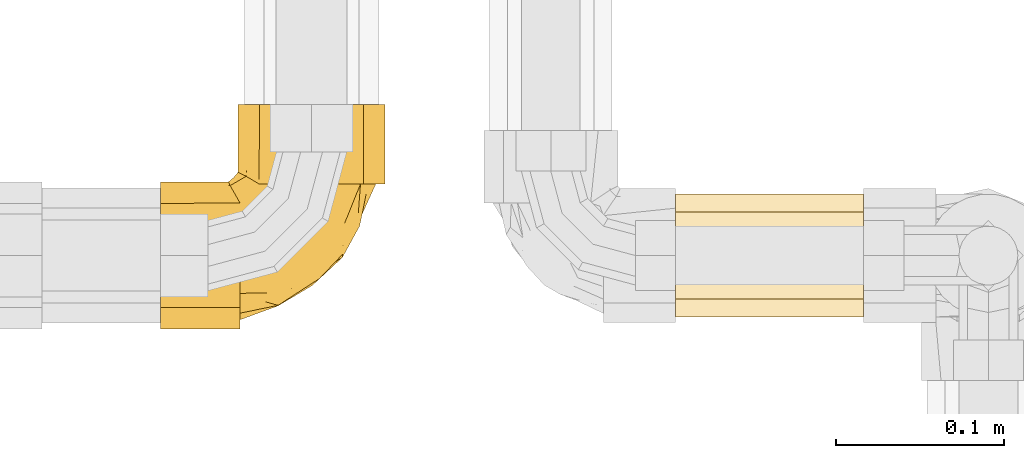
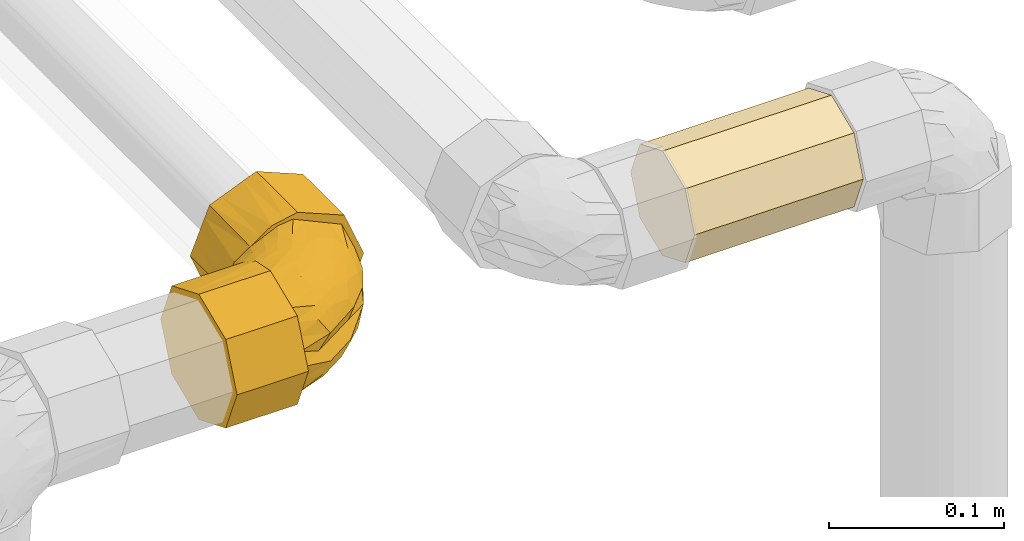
# One storey, part 252 of 652: 2 coverings.
"""IFC2X3 building model written with IfcOpenShell, lengths in millimetres."""

from ifc_helpers import new_model, entity, si_unit, converted_unit, direction, frame, origin, place, context, subcontext, project, spatial, faceted_brep, material, type_object, element, save


model = new_model("IFC2X3")

# Units and contexts
model_context = context("Model", 3, precision=0.01, world=frame((0.0, 0.0, 308426.39999999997)), true_north=direction((6.123233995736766e-17, 1.0)))
plan_context = context("Plan", 3, precision=0.01, world=frame((0.0, 0.0, 308426.39999999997)), true_north=direction((6.123233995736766e-17, 1.0)))
body_context = subcontext(model_context, "Body", "Model", "MODEL_VIEW")
ifc_project = project(units=[si_unit("LENGTHUNIT", "METRE", prefix="MILLI"), si_unit("AREAUNIT", "SQUARE_METRE"), si_unit("VOLUMEUNIT", "CUBIC_METRE"), converted_unit("PLANEANGLEUNIT", "DEGREE", entity("IfcPlaneAngleMeasure", 0.017453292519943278), si_unit("PLANEANGLEUNIT", "RADIAN"), dimensions=[0, 0, 0, 0, 0, 0, 0])], contexts=[model_context, plan_context])

# Site, building, storey
site_placement = place(None, origin())
site = spatial("IfcSite", under=ifc_project, at=site_placement, Name="Default", CompositionType="ELEMENT")
building_placement = place(site_placement, origin())
building = spatial("IfcBuilding", under=site, at=building_placement, CompositionType="ELEMENT")
storey_placement = place(building_placement, frame((0.0, 0.0, 1730.6999999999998)))
storey = spatial("IfcBuildingStorey", under=building, at=storey_placement, Name="EG_Produktion_FFB", CompositionType="ELEMENT", Elevation=1730.6999999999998)

# Coverings
ifc_material = material(Name="Dämmung - Armaflex-Schlauch")
covering_type = type_object("IfcCoveringType", Name="Rohrdämmung außen:Armaflex-Schlauch", PredefinedType="INSULATION")
covering_1_placement = place(storey_placement, frame((78890.28000000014, 51592.71308173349, 3554.6847277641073)))
element("IfcCovering", 1, at=covering_1_placement, inside=storey, type_object=covering_type, material=ifc_material, Name="Rohrdämmung außen:Armaflex-Schlauch", ObjectType="Rohrdämmung außen:Armaflex-Schlauch", PredefinedType="INSULATION", context=body_context, shape_type="Brep", body=[
    faceted_brep([(47.17999999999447, 45.315272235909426, 1.5952722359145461), (47.17999999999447, 53.79016348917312, 3.304941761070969), (47.17999999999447, 62.265054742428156, 5.014611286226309), (47.17999999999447, 69.4070792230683, 9.868813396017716), (47.17999999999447, 76.54910370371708, 14.723015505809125), (47.180000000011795, 67.43551000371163, 10.581665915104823), (47.17999999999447, 58.3219163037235, 6.440316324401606), (47.17999999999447, 48.32176388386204, 5.315272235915), (47.180000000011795, 40.63317513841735, 8.855811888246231), (47.180000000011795, 32.94458639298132, 12.396351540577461), (47.180000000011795, 24.595238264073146, 16.241166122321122), (47.17999999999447, 16.2458901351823, 20.085980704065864), (47.180000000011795, 11.677312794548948, 32.70062646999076), (47.17999999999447, 7.108735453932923, 45.31527223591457), (47.180000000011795, 11.036427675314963, 53.1972475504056), (47.180000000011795, 14.964119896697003, 61.07922286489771), (47.180000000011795, 18.891812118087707, 68.96119817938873), (47.17999999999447, 22.81950433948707, 76.84317349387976), (47.180000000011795, 32.0567064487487, 79.91186190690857), (47.180000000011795, 40.189235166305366, 82.6135670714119), (47.17999999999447, 48.32176388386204, 85.31527223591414), (47.180000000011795, 52.07968978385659, 84.47655416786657), (47.180000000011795, 55.8376156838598, 83.63783609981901), (47.180000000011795, 61.84796091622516, 82.29640860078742), (47.17999999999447, 67.85830614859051, 80.9549811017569), (47.17999999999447, 76.54910370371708, 75.90752896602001), (47.17999999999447, 69.4070792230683, 80.76173107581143), (47.17999999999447, 62.265054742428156, 85.61593318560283), (47.17999999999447, 53.79016348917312, 87.32560271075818), (47.17999999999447, 45.315272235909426, 89.03527223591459), (47.17999999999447, 36.91076329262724, 85.55401064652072), (47.17999999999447, 29.85791799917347, 82.6326264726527), (47.17999999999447, 22.129240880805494, 79.43130359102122), (47.17999999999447, 14.400563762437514, 76.22998070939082), (47.17999999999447, 11.19924088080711, 68.50130359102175), (47.17999999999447, 7.997917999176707, 60.77262647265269), (47.17999999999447, 5.076533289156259, 53.71977988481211), (47.17999999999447, 1.5952722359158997, 45.31527223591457), (47.17999999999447, 5.076533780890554, 36.91076339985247), (47.17999999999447, 7.997917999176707, 29.85791799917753), (47.17999999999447, 11.19924088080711, 22.12924088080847), (47.17999999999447, 14.400563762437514, 14.400563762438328), (47.17999999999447, 22.129240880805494, 11.199240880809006), (47.17999999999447, 29.85791799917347, 7.997917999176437), (47.17999999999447, 36.910764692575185, 5.07653324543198), (0.0, 53.71977982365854, 85.55401120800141), (0.0, 60.772626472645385, 82.6326264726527), (0.0, 68.50130359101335, 79.4313035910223), (0.0, 76.22998070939, 76.22998070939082), (0.0, 79.43130359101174, 68.50130359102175), (0.0, 82.63262647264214, 60.77262647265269), (0.0, 85.83394935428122, 53.04394935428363), (0.0, 89.03527223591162, 45.31527223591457), (0.0, 85.55401125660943, 36.91076476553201), (0.0, 82.63262647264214, 29.857917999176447), (0.0, 79.43130359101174, 22.129240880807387), (0.0, 76.22998070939, 14.400563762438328), (0.0, 68.50130359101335, 11.199240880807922), (0.0, 60.772626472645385, 7.997917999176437), (0.0, 53.0439493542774, 4.796595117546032), (0.0, 45.315272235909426, 1.5952722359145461), (0.0, 37.58659511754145, 4.796595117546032), (0.0, 29.85791799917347, 7.997917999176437), (0.0, 22.129240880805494, 11.199240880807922), (0.0, 14.400563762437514, 14.400563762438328), (0.0, 11.19924088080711, 22.12924088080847), (0.0, 7.9979179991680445, 29.857917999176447), (0.0, 4.796595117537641, 37.58659511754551), (0.0, 1.5952722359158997, 45.31527223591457), (0.0, 4.796595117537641, 53.04394935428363), (0.0, 7.997917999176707, 60.77262647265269), (0.0, 11.19924088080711, 68.50130359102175), (0.0, 14.400563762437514, 76.22998070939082), (0.0, 21.45340872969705, 79.15136474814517), (0.0, 28.506253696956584, 82.07274878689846), (0.0, 36.910762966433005, 85.55401051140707), (0.0, 45.315272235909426, 89.03527223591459), (40.28038015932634, 89.03527223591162, 45.31527223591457), (41.33169831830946, 86.8489728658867, 58.96774864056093), (44.25584915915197, 81.69903828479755, 67.43763880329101), (41.46955853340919, 86.62452082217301, 35.3359771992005), (42.65873690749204, 84.2137694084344, 25.356682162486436), (44.91936845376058, 80.38143655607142, 20.039848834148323), (89.72000000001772, 87.85527223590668, 1.595272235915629), (98.1245082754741, 87.85527223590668, 5.07653354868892), (105.17735423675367, 87.85527223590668, 7.9979179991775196), (112.90603135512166, 87.85527223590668, 11.199240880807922), (120.63470847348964, 87.85527223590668, 14.40056376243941), (123.83603135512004, 87.85527223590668, 22.12924088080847), (127.03735423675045, 87.85527223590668, 29.85791799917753), (129.95873900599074, 87.85527223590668, 36.910764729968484), (133.44000000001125, 87.85527223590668, 45.31527223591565), (129.95873853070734, 87.85527223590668, 53.71978088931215), (127.03735423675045, 87.85527223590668, 60.772626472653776), (123.83603135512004, 87.85527223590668, 68.50130359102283), (120.63470847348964, 87.85527223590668, 76.2299807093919), (112.90603135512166, 87.85527223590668, 79.4313035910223), (105.17735423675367, 87.85527223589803, 82.6326264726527), (98.12450799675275, 87.85527223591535, 85.55401103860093), (89.72000000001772, 87.85527223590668, 89.03527223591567), (81.24510874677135, 87.85527223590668, 87.32560271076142), (72.77021749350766, 87.85527223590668, 85.61593318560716), (65.62819301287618, 87.85527223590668, 80.76173107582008), (58.48616853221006, 87.85527223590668, 75.90752896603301), (67.59976223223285, 87.85527223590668, 80.04887855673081), (76.71335593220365, 87.85527223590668, 84.19022814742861), (86.71350835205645, 87.85527223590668, 85.31527223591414), (94.40209699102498, 87.85527223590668, 81.7747326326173), (102.0906856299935, 87.85527223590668, 78.23419302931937), (110.44003386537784, 87.85527223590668, 74.3893783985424), (118.78938210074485, 87.85527223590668, 70.54456376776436), (123.35795944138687, 87.85527223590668, 57.92991800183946), (127.92653678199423, 87.85527223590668, 45.31527223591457), (124.11404686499, 87.85527223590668, 37.66448146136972), (120.30155694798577, 87.85527223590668, 30.013690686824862), (116.2586624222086, 87.85527223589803, 21.90053083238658), (112.21576789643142, 87.85527223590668, 13.78737097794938), (102.97856549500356, 87.85527223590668, 10.71868246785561), (94.84603692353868, 87.85527223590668, 8.016977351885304), (86.71350835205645, 87.85527223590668, 5.315272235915), (82.95558201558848, 87.85527223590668, 6.1539904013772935), (79.1976556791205, 87.85527223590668, 6.9927085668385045), (73.18731088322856, 87.85527223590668, 8.334135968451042), (67.17696608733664, 87.85527223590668, 9.675563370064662), (58.48616853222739, 87.85527223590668, 14.723015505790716), (65.62819301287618, 87.85527223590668, 9.868813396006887), (72.77021749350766, 87.85527223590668, 5.014611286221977), (81.24510874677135, 87.85527223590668, 3.3049417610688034), (120.63470847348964, 135.03527223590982, 76.2299807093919), (123.5560925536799, 135.03527223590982, 69.17713564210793), (126.47747663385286, 135.03527223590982, 62.12429057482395), (129.9587383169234, 135.03527223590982, 53.7197814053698), (133.44000000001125, 135.03527223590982, 45.31527223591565), (130.23867711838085, 135.03527223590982, 37.586595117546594), (127.03735423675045, 135.03527223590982, 29.85791799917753), (123.83603135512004, 135.03527223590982, 22.12924088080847), (120.63470847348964, 135.03527223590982, 14.40056376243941), (113.58186238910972, 135.03527223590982, 11.479179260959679), (106.5290163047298, 135.03527223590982, 8.557794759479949), (98.12450815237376, 135.03527223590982, 5.076533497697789), (89.72000000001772, 135.03527223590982, 1.595272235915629), (81.31549252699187, 135.03527223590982, 5.076533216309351), (74.26264576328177, 135.03527223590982, 7.9979179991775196), (66.53396864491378, 135.03527223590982, 11.199240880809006), (58.805291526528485, 135.03527223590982, 14.40056376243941), (55.603968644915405, 135.03527223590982, 22.129240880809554), (52.402645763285, 135.03527223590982, 29.85791799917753), (49.2013228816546, 135.03527223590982, 37.586595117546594), (46.0, 135.03527223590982, 45.31527223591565), (49.48126098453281, 135.03527223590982, 53.71977971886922), (52.402645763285, 135.03527223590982, 60.772626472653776), (55.603968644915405, 135.03527223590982, 68.50130359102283), (58.805291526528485, 135.03527223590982, 76.2299807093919), (66.53396864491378, 135.03527223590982, 79.4313035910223), (74.26264576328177, 135.03527223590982, 82.63262647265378), (81.3154907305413, 135.03527223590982, 85.55401051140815), (89.72000000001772, 135.03527223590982, 89.03527223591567), (97.4486771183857, 135.03527223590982, 85.83394935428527), (105.17735423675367, 135.03527223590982, 82.63262647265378), (112.90603135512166, 135.03527223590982, 79.4313035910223), (48.410751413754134, 93.5657137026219, 55.29456727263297), (46.0, 94.75489207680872, 45.31527223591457), (50.8215028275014, 92.37653532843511, 65.27386230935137), (54.65383567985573, 90.11590378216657, 70.59069563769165), (48.18629937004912, 93.70357391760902, 31.66279583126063), (53.336233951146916, 90.77942307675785, 23.192905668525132), (69.00398703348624, 32.54265070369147, 77.86587625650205), (79.26910311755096, 51.42928359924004, 82.8446716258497), (64.28083873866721, 39.73108312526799, 82.52556184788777), (81.73107569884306, 63.427735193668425, 84.62352217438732), (79.20442983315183, 75.59759657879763, 85.31527223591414), (78.10776438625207, 73.80742095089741, 85.31527223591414), (74.90155785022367, 68.57367093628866, 85.31527223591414), (71.69535131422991, 63.33992092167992, 85.31527223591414), (67.73559181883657, 51.366056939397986, 84.7662311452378), (62.90914025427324, 17.630996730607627, 66.05232360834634), (64.29367597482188, 23.177365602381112, 72.22141766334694), (109.22554710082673, 64.1799761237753, 71.71080253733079), (102.70311048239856, 67.51314169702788, 78.22924719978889), (108.2785050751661, 51.24294252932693, 62.809495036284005), (117.47651375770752, 70.50737075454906, 64.9119334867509), (89.70611796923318, 44.60323784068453, 75.72471560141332), (79.39119784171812, 32.37339901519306, 73.02350929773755), (94.79312059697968, 40.165184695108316, 68.32454403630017), (90.62231442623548, 54.50199303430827, 79.98762004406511), (62.3907714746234, 16.362071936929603, 45.31527223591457), (69.82106388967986, 15.721031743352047, 55.59342986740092), (108.04868616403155, 46.00045172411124, 54.752738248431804), (118.2991624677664, 62.883639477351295, 55.29732490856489), (93.39961730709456, 68.05804006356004, 82.65380542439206), (77.92716293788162, 25.713963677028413, 66.96108775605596), (94.51239127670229, 31.720184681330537, 55.48321494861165), (90.48949943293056, 31.7324039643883, 62.62473881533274), (108.02308589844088, 44.12208138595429, 45.31527223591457), (119.72050695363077, 69.82443573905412, 45.31527223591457), (77.60154294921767, 25.615408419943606, 45.31527223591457), (92.81231442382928, 34.86874490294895, 45.31527223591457), (82.41063636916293, 80.83134659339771, 85.31527223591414), (66.46160079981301, 60.133714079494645, 85.31527223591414), (61.22785028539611, 56.92750723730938, 85.31527223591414), (54.20392514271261, 52.624635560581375, 85.31527223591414), (50.69196257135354, 50.47319972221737, 85.31527223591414), (71.72947387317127, 78.77641040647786, 84.11551811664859), (67.36010628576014, 72.9973537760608, 84.10693973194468), (56.52012715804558, 64.92960904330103, 83.79173661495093), (65.04087912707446, 66.80037174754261, 84.67911960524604), (59.906074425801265, 72.04093677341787, 82.61861058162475), (63.43136302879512, 80.24278960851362, 81.34638912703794), (43.41108006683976, 91.62419216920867, 45.31527223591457), (49.261107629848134, 86.20019924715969, 69.27986326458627), (55.14442212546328, 79.8908502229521, 77.75187936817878), (53.03286107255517, 70.89843278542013, 81.12154294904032), (62.99433518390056, 75.12919765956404, 8.011933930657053), (54.79248203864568, 71.60390875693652, 9.284155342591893), (55.14442305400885, 79.89084929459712, 12.878664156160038), (61.22785028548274, 56.927507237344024, 5.315272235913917), (59.43767565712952, 55.83084240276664, 5.315272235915), (54.203925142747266, 52.624635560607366, 5.315272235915), (48.83507246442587, 85.77416463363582, 21.35068172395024), (64.13683850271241, 82.00241115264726, 9.509001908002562), (70.10566333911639, 78.51514579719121, 6.838807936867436), (62.03791892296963, 67.67516617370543, 6.523604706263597), (68.23490171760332, 69.9943937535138, 5.951424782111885), (71.69535131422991, 63.33992092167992, 5.315272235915), (56.258862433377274, 63.30579864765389, 6.515026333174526), (66.46160079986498, 60.13371407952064, 5.315272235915), (84.56207236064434, 84.34330941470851, 5.315272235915), (82.4106363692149, 80.83134659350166, 5.315272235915), (78.10776438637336, 73.80742095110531, 5.315272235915), (74.90155785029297, 68.57367093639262, 5.315272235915), (112.06272967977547, 70.5186550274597, 18.716447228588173), (117.62981658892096, 72.143548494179, 24.918359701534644), (109.4409783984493, 57.14683994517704, 23.797144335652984), (102.73486486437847, 41.373241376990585, 31.915050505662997), (96.00640061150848, 40.15392129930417, 23.59450518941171), (69.7757408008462, 15.362731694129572, 36.27135106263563), (117.4798389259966, 62.15626531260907, 33.85195429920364), (71.60753660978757, 53.304196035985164, 6.007022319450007), (66.97986259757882, 41.63422557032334, 7.977727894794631), (83.60598780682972, 55.766167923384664, 7.785872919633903), (80.53671556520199, 44.415658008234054, 10.643004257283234), (95.30418854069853, 70.7544326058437, 8.104982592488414), (83.66921531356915, 67.29968029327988, 5.864313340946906), (90.43203242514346, 45.32915177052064, 14.905829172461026), (102.49262071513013, 66.0312838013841, 12.76466818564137), (102.74278789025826, 55.6551098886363, 17.670100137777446), (71.2090381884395, 26.2555269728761, 18.6621952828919), (66.84410548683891, 32.06723242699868, 12.346778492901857), (83.52574882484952, 26.490988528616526, 27.959461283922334), (64.64552317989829, 16.586611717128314, 27.504504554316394), (90.0539908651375, 27.44243292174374, 37.02608684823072)], [[[0, 1, 2, 3, 4, 5, 6, 7, 8, 9, 10, 11, 12, 13, 14, 15, 16, 17, 18, 19, 20, 21, 22, 23, 24, 25, 26, 27, 28, 29, 30, 31, 32, 33, 34, 35, 36, 37, 38, 39, 40, 41, 42, 43, 44]], [[45, 46, 47, 48, 49, 50, 51, 52, 53, 54, 55, 56, 57, 58, 59, 60, 61, 62, 63, 64, 65, 66, 67, 68, 69, 70, 71, 72, 73, 74, 75, 76]], [[45, 27, 47, 46]], [[77, 51, 78]], [[78, 50, 79]], [[51, 77, 52]], [[25, 79, 49]], [[27, 45, 28]], [[48, 26, 25]], [[51, 50, 78]], [[76, 28, 45]], [[76, 29, 28]], [[47, 27, 26]], [[26, 48, 47]], [[25, 49, 48]], [[79, 50, 49]], [[30, 29, 76, 75, 74, 73, 72, 33, 32, 31]], [[33, 72, 71, 70, 69, 68, 37, 36, 35, 34]], [[0, 44, 43, 42, 41, 64, 63, 62, 61, 60]], [[66, 65, 64, 41, 40, 39, 38, 37, 68, 67]], [[3, 57, 56]], [[60, 59, 0]], [[80, 54, 53]], [[58, 2, 1]], [[58, 57, 2]], [[55, 81, 82, 4]], [[53, 77, 80]], [[2, 57, 3]], [[1, 59, 58]], [[56, 4, 3]], [[54, 80, 81]], [[0, 59, 1]], [[53, 52, 77]], [[55, 4, 56]], [[55, 54, 81]], [[83, 84, 85, 86, 87, 88, 89, 90, 91, 92, 93, 94, 95, 96, 97, 98, 99, 100, 101, 102, 103, 104, 105, 106, 107, 108, 109, 110, 111, 112, 113, 114, 115, 116, 117, 118, 119, 120, 121, 122, 123, 124, 125, 126, 127]], [[128, 129, 130, 131, 132, 133, 134, 135, 136, 137, 138, 139, 140, 141, 142, 143, 144, 145, 146, 147, 148, 149, 150, 151, 152, 153, 154, 155, 156, 157, 158, 159]], [[130, 129, 128, 95, 94, 93, 92, 91, 132, 131]], [[95, 128, 159, 158, 157, 156, 99, 98, 97, 96]], [[102, 153, 152]], [[160, 150, 149]], [[99, 156, 100]], [[154, 153, 101, 155]], [[155, 101, 100]], [[149, 161, 160]], [[101, 153, 102]], [[151, 162, 163, 103]], [[152, 103, 102]], [[150, 160, 162]], [[156, 155, 100]], [[149, 148, 161]], [[151, 103, 152]], [[151, 150, 162]], [[125, 144, 143]], [[140, 83, 127]], [[161, 147, 164]], [[164, 146, 165]], [[147, 161, 148]], [[144, 125, 124]], [[126, 141, 127]], [[143, 142, 141, 126]], [[124, 145, 144]], [[140, 127, 141]], [[147, 146, 164]], [[143, 126, 125]], [[124, 165, 145]], [[165, 146, 145]], [[84, 83, 140, 139, 138, 137, 136, 87, 86, 85]], [[87, 136, 135, 134, 133, 132, 91, 90, 89, 88]], [[166, 167, 168]], [[169, 170, 171, 172, 173]], [[19, 168, 174]], [[17, 166, 18]], [[175, 176, 16]], [[177, 109, 178]], [[179, 180, 177]], [[181, 182, 183]], [[166, 181, 184]], [[14, 185, 186]], [[187, 188, 179]], [[184, 189, 167]], [[182, 181, 166]], [[176, 175, 190]], [[186, 191, 192]], [[166, 184, 167]], [[169, 174, 167]], [[188, 193, 194]], [[110, 109, 177]], [[190, 175, 186]], [[175, 16, 15]], [[186, 175, 15]], [[176, 190, 182]], [[186, 15, 14]], [[186, 195, 191]], [[196, 193, 187]], [[179, 183, 192]], [[184, 178, 189]], [[191, 195, 196]], [[178, 109, 108]], [[183, 177, 181]], [[178, 108, 189]], [[181, 177, 178]], [[189, 108, 107]], [[107, 106, 197, 170]], [[170, 169, 107]], [[169, 173, 174]], [[167, 189, 169]], [[107, 169, 189]], [[174, 173, 198, 199, 200, 201, 20]], [[174, 20, 19]], [[168, 19, 18]], [[166, 168, 18]], [[174, 168, 167]], [[111, 180, 188]], [[110, 177, 180]], [[194, 112, 111]], [[178, 184, 181]], [[188, 180, 179]], [[111, 110, 180]], [[179, 191, 187]], [[111, 188, 194]], [[187, 191, 196]], [[193, 188, 187]], [[192, 183, 190]], [[177, 183, 179]], [[166, 17, 176]], [[183, 182, 190]], [[166, 176, 182]], [[17, 16, 176]], [[185, 14, 13]], [[185, 195, 186]], [[186, 192, 190]], [[179, 192, 191]], [[172, 202, 203]], [[204, 205, 206]], [[23, 22, 21, 20, 201, 200, 199]], [[202, 104, 207]], [[208, 77, 78]], [[203, 173, 172]], [[203, 202, 207]], [[105, 104, 202]], [[163, 162, 209]], [[203, 205, 173]], [[197, 106, 105, 171, 170]], [[207, 206, 203]], [[210, 207, 103]], [[104, 103, 207]], [[160, 161, 208]], [[210, 163, 209]], [[206, 207, 210]], [[210, 25, 211]], [[204, 211, 24]], [[209, 25, 210]], [[78, 79, 25, 209]], [[105, 202, 171]], [[210, 103, 163]], [[78, 209, 162]], [[205, 203, 206]], [[172, 171, 202]], [[206, 211, 204]], [[204, 198, 205]], [[204, 24, 23]], [[210, 211, 206]], [[199, 204, 23]], [[198, 204, 199]], [[198, 173, 205]], [[25, 24, 211]], [[78, 160, 208]], [[78, 162, 160]], [[212, 213, 214]], [[6, 215, 216, 217, 7]], [[82, 218, 214]], [[219, 123, 220]], [[214, 213, 4]], [[5, 4, 213]], [[221, 222, 223]], [[208, 80, 77]], [[218, 124, 214]], [[161, 164, 208]], [[214, 124, 219]], [[6, 5, 224]], [[82, 81, 218]], [[224, 5, 213]], [[225, 224, 221]], [[220, 222, 212]], [[122, 121, 120, 119, 226, 227, 228]], [[164, 165, 124, 218]], [[221, 223, 225]], [[213, 212, 221]], [[221, 224, 213]], [[6, 224, 215]], [[214, 4, 82]], [[164, 218, 81]], [[222, 221, 212]], [[225, 215, 224]], [[212, 219, 220]], [[220, 229, 222]], [[220, 123, 122]], [[214, 219, 212]], [[228, 220, 122]], [[229, 220, 228]], [[229, 223, 222]], [[124, 123, 219]], [[164, 80, 208]], [[164, 81, 80]], [[230, 115, 231]], [[232, 233, 234]], [[12, 235, 13]], [[113, 194, 236]], [[237, 216, 215, 225, 223]], [[236, 232, 231]], [[238, 239, 240]], [[230, 231, 232]], [[118, 241, 242]], [[243, 244, 245]], [[246, 10, 247]], [[116, 244, 117]], [[244, 243, 240]], [[244, 239, 241]], [[248, 249, 246]], [[247, 238, 240]], [[237, 242, 239]], [[232, 236, 233]], [[250, 193, 196, 195]], [[113, 236, 114]], [[233, 248, 234]], [[113, 112, 194]], [[193, 236, 194]], [[236, 193, 233]], [[233, 250, 248]], [[231, 115, 114]], [[248, 250, 235]], [[248, 235, 249]], [[235, 250, 195]], [[235, 195, 185, 13]], [[235, 12, 249]], [[12, 11, 249]], [[246, 249, 11]], [[10, 9, 247]], [[234, 246, 243]], [[246, 234, 248]], [[245, 234, 243]], [[246, 11, 10]], [[247, 9, 238]], [[243, 246, 247]], [[238, 9, 8]], [[8, 7, 217, 216]], [[216, 237, 8]], [[237, 223, 242]], [[239, 238, 237]], [[8, 237, 238]], [[242, 223, 229, 228, 227, 226, 119]], [[242, 119, 118]], [[241, 118, 117]], [[244, 241, 117]], [[242, 241, 239]], [[244, 240, 239]], [[247, 240, 243]], [[193, 250, 233]], [[236, 231, 114]], [[230, 232, 245]], [[244, 116, 230]], [[234, 245, 232]], [[244, 230, 245]], [[116, 115, 230]]]),
])
covering_2_placement = place(storey_placement, frame((79196.34274770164, 51599.933081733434, 3561.9047277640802)))
element("IfcCovering", 2, at=covering_2_placement, inside=storey, type_object=covering_type, material=ifc_material, Name="Rohrdämmung außen:Armaflex-Schlauch", ObjectType="Rohrdämmung außen:Armaflex-Schlauch", PredefinedType="INSULATION", context=body_context, shape_type="Brep", body=[
    faceted_brep([(0.0, 1.5952722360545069, 38.09527223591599), (0.0, 3.842611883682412, 43.52083009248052), (0.0, 6.940573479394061, 50.99997099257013), (0.0, 9.613224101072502, 57.45232037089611), (0.0, 12.285874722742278, 63.90466974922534), (0.0, 18.738224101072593, 66.5773203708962), (0.0, 25.190573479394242, 69.24997099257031), (0.0, 31.642922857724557, 71.92262161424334), (0.0, 38.095272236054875, 74.59527223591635), (0.0, 43.520830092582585, 72.3479325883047), (0.0, 50.9999709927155, 69.24997099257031), (0.0, 57.45232037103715, 66.5773203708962), (0.0, 63.904669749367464, 63.90466974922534), (0.0, 66.57732037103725, 57.45232037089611), (0.0, 69.24997099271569, 50.99997099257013), (0.0, 71.92262161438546, 44.54762161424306), (0.0, 74.59527223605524, 38.09527223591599), (0.0, 71.92262161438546, 31.64292285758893), (0.0, 69.24997099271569, 25.190573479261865), (0.0, 66.57732037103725, 18.73822410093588), (0.0, 63.904669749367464, 12.28587472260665), (0.0, 57.45232037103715, 9.61322410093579), (0.0, 50.9999709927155, 6.940573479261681), (0.0, 44.547621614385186, 4.267922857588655), (0.0, 38.095272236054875, 1.595272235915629), (0.0, 32.669714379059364, 3.84261188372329), (0.0, 25.190573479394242, 6.940573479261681), (0.0, 18.738224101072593, 9.613224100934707), (0.0, 12.285874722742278, 12.28587472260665), (0.0, 9.613224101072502, 18.73822410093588), (0.0, 6.940573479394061, 25.190573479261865), (0.0, 4.267922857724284, 31.64292285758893), (111.50000000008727, 18.738224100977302, 9.613224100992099), (111.50000000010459, 25.19057347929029, 6.940573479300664), (111.50000000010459, 31.642922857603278, 4.267922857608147), (111.50000000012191, 38.09527223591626, 1.5952722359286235), (111.50000000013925, 48.94638799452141, 6.089951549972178), (111.50000000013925, 56.42552887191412, 9.187913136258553), (111.50000000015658, 63.90466974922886, 12.285874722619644), (111.50000000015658, 66.57732037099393, 18.738224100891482), (111.5000000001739, 69.24997099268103, 25.19057347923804), (111.5000000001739, 71.92262161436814, 31.642922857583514), (111.5000000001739, 74.59527223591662, 38.09527223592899), (111.5000000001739, 70.1005929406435, 48.94638794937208), (111.50000000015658, 67.0026313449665, 56.42552884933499), (111.50000000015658, 63.90466974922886, 63.90466974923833), (111.50000000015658, 57.452320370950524, 66.57732037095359), (111.50000000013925, 50.99997099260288, 69.24997099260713), (111.50000000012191, 44.54762161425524, 71.92262161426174), (111.50000000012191, 38.09527223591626, 74.59527223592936), (111.50000000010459, 27.24415652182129, 70.10059294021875), (111.50000000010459, 19.765015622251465, 67.00263134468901), (111.50000000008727, 12.28587472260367, 63.90466974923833), (111.50000000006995, 9.613224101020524, 57.452320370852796), (111.50000000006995, 6.940573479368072, 50.999970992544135), (111.50000000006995, 4.267922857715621, 44.54762161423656), (111.50000000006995, 1.5952722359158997, 38.09527223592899), (111.50000000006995, 6.089951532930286, 27.244156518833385), (111.50000000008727, 9.18791312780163, 19.765015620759), (111.50000000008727, 12.28587472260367, 12.285874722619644)], [[[0, 1, 2, 3, 4, 5, 6, 7, 8, 9, 10, 11, 12, 13, 14, 15, 16, 17, 18, 19, 20, 21, 22, 23, 24, 25, 26, 27, 28, 29, 30, 31]], [[32, 33, 34, 35, 36, 37, 38, 39, 40, 41, 42, 43, 44, 45, 46, 47, 48, 49, 50, 51, 52, 53, 54, 55, 56, 57, 58, 59]], [[39, 38, 20, 19, 18, 17, 16, 42, 41, 40]], [[36, 35, 24, 23, 22, 21, 20, 38, 37]], [[33, 32, 59, 28, 27, 26, 25, 24, 35, 34]], [[28, 59, 58, 57, 56, 0, 31, 30, 29]], [[54, 53, 52, 4, 3, 2, 1, 0, 56, 55]], [[4, 52, 51, 50, 49, 8, 7, 6, 5]], [[47, 46, 45, 12, 11, 10, 9, 8, 49, 48]], [[12, 45, 44, 43, 42, 16, 15, 14, 13]]]),
])

save(model, "model.ifc")
